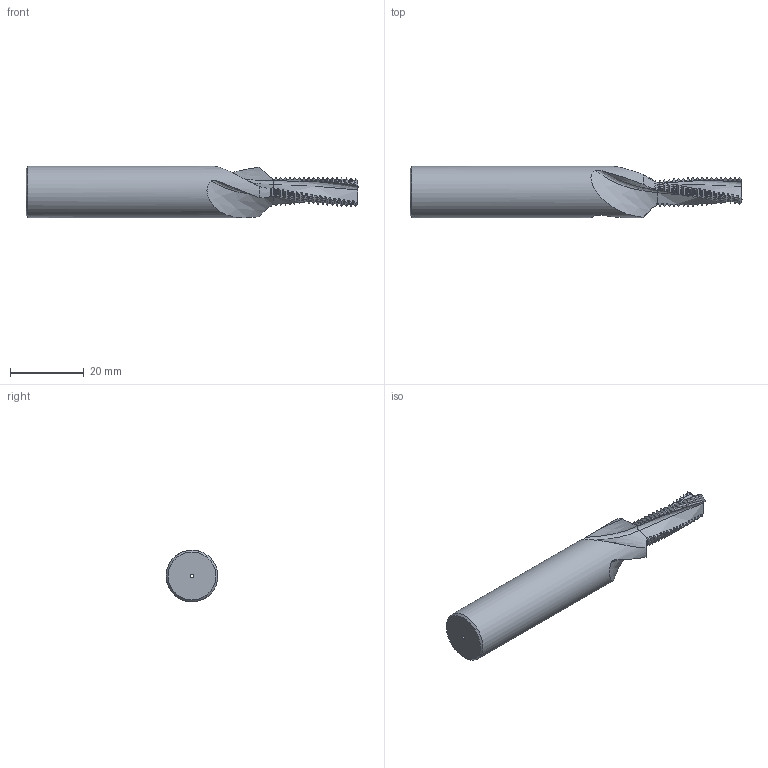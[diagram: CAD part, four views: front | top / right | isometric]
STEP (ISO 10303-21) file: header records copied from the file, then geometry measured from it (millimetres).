
FILE_DESCRIPTION(/* description */ (''),/* implementation_level */ '2;1');
FILE_NAME(/* name */ '00036455-STEP',/* time_stamp */ '2024-02-21T08:29:54+01:00',/* author */ (''),/* organization */ (''),/* preprocessor_version */ 'ST-DEVELOPER v16.5',/* originating_system */ 'HiCAD 2017 2201.0 Build 268',/* authorisation */ '');
FILE_SCHEMA (('AP242_MANAGED_MODEL_BASED_3D_ENGINEERING_MIM_LF { 1 0 10303 442 1 1 4 }'));
Length unit declared in the file: millimetre
Products named in the file (2): Root; ROTATIONSTEIL_3
Assembly tree (1 placements, depth 2):
  Root
    ROTATIONSTEIL_3
Bounding box: 90 x 14 x 13.99 mm (x, y, z)
Volume: 9509.6 mm3; surface area: 4021.1 mm2
Topology: 1 solids, 1 shells, 362 faces, 1077 edges, 717 vertices
Faces by surface type: cylinder 116, cone 115, torus 111, bspline 18, plane 2
Full cylindrical faces by diameter (mm): 1 x1, 14 x1
Entity records: 36955 total; most frequent: CARTESIAN_POINT 18420, PRESENTATION_STYLE_ASSIGNMENT 2143, COLOUR_RGB 2143, DRAUGHTING_PRE_DEFINED_CURVE_FONT 2142, CURVE_STYLE 2142, OVER_RIDING_STYLED_ITEM 2142, ORIENTED_EDGE 2142, DIRECTION 1384
